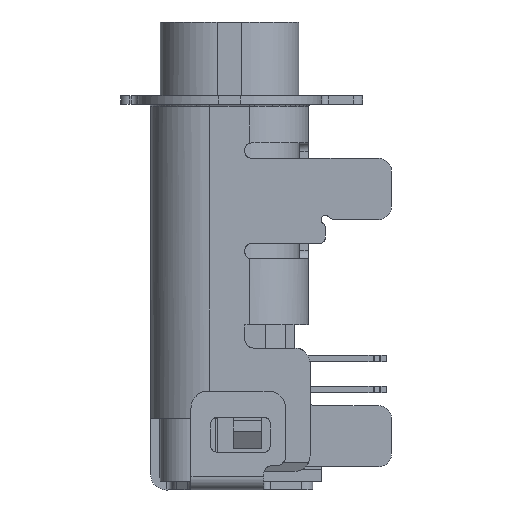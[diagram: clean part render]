
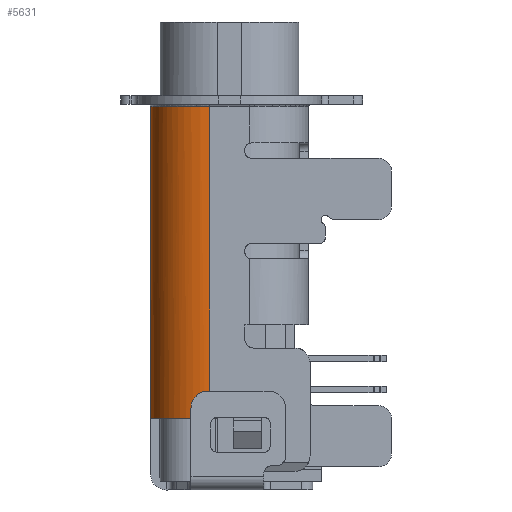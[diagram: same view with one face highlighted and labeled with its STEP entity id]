
A CAD part, left-side view. The second image highlights one B-rep face of the part: STEP entity #5631.
In plain terms, the highlighted cylindrical face has radius 1.35 mm (diameter 2.7 mm), a partial arc.
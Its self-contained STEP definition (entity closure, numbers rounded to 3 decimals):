
#453 = AXIS2_PLACEMENT_3D ( 'NONE', #3696, #11248, #4158 ) ;
#1781 = CARTESIAN_POINT ( 'NONE',  ( -3.522, 9.843, -10.09 ) ) ;
#2446 = CARTESIAN_POINT ( 'NONE',  ( -4.695, 2.726, -8.74 ) ) ;
#2612 = VERTEX_POINT ( 'NONE', #42519 ) ;
#3259 = CARTESIAN_POINT ( 'NONE',  ( -3.345, 2.726, -10.09 ) ) ;
#3696 = CARTESIAN_POINT ( 'NONE',  ( -3.345, 0., -8.74 ) ) ;
#4094 = CARTESIAN_POINT ( 'NONE',  ( -3.345, 2.726, -10.09 ) ) ;
#4158 = DIRECTION ( 'NONE',  ( -1., 0., 0. ) ) ;
#4813 = CARTESIAN_POINT ( 'NONE',  ( -4.425, 2.726, -9.57 ) ) ;
#5277 = CARTESIAN_POINT ( 'NONE',  ( -3.698, 2.726, -10.055 ) ) ;
#5631 = ADVANCED_FACE ( 'NONE', ( #36022 ), #7692, .T. ) ;
#5790 = CARTESIAN_POINT ( 'NONE',  ( -4.175, 9.843, -9.82 ) ) ;
#7692 = CYLINDRICAL_SURFACE ( 'NONE', #453, 1.35 ) ;
#8597 = CARTESIAN_POINT ( 'NONE',  ( -4.695, 2.726, -8.917 ) ) ;
#9045 = VERTEX_POINT ( 'NONE', #4094 ) ;
#9098 = CARTESIAN_POINT ( 'NONE',  ( -4.695, 9.843, -8.917 ) ) ;
#9173 = CARTESIAN_POINT ( 'NONE',  ( -3.345, 9.843, -10.09 ) ) ;
#11248 = DIRECTION ( 'NONE',  ( 0., -1., 0. ) ) ;
#11313 = EDGE_LOOP ( 'NONE', ( #21713, #37461, #12061, #33537 ) ) ;
#12061 = ORIENTED_EDGE ( 'NONE', *, *, #12787, .T. ) ;
#12422 = CARTESIAN_POINT ( 'NONE',  ( -4.525, 9.843, -9.42 ) ) ;
#12613 = CARTESIAN_POINT ( 'NONE',  ( -3.522, 2.726, -10.09 ) ) ;
#12787 = EDGE_CURVE ( 'NONE', #35740, #30373, #31983, .T. ) ;
#14493 = B_SPLINE_CURVE_WITH_KNOTS ( 'NONE', 3,
 ( #9173, #32029, #39119, #3259 ),
 .UNSPECIFIED., .F., .F.,
 ( 4, 4 ),
 ( 0., 1. ),
 .UNSPECIFIED. ) ;
#19677 = CARTESIAN_POINT ( 'NONE',  ( -4.66, 2.726, -9.094 ) ) ;
#19725 = CARTESIAN_POINT ( 'NONE',  ( -3.698, 9.843, -10.055 ) ) ;
#21557 = CARTESIAN_POINT ( 'NONE',  ( -4.695, 5.098, -8.74 ) ) ;
#21713 = ORIENTED_EDGE ( 'NONE', *, *, #22854, .T. ) ;
#22815 = CARTESIAN_POINT ( 'NONE',  ( -3.345, 9.843, -10.09 ) ) ;
#22854 = EDGE_CURVE ( 'NONE', #9045, #2612, #29247, .T. ) ;
#23747 = CARTESIAN_POINT ( 'NONE',  ( -4.695, 9.843, -8.74 ) ) ;
#24807 = CARTESIAN_POINT ( 'NONE',  ( -4.695, 9.843, -8.74 ) ) ;
#26765 = CARTESIAN_POINT ( 'NONE',  ( -4.525, 2.726, -9.42 ) ) ;
#28626 = CARTESIAN_POINT ( 'NONE',  ( -4.695, 7.47, -8.74 ) ) ;
#29247 = B_SPLINE_CURVE_WITH_KNOTS ( 'NONE', 3,
 ( #40915, #12613, #5277, #37150, #33597, #4813, #26765, #19677, #8597, #34069 ),
 .UNSPECIFIED., .F., .F.,
 ( 4, 2, 2, 2, 4 ),
 ( 0., 0.25, 0.5, 0.75, 1. ),
 .UNSPECIFIED. ) ;
#30373 = VERTEX_POINT ( 'NONE', #30988 ) ;
#30433 = EDGE_CURVE ( 'NONE', #2612, #35740, #46230, .T. ) ;
#30988 = CARTESIAN_POINT ( 'NONE',  ( -3.345, 9.843, -10.09 ) ) ;
#31983 = B_SPLINE_CURVE_WITH_KNOTS ( 'NONE', 3,
 ( #23747, #9098, #37421, #12422, #33646, #5790, #44515, #19725, #1781, #22815 ),
 .UNSPECIFIED., .F., .F.,
 ( 4, 2, 2, 2, 4 ),
 ( 0., 0.25, 0.5, 0.75, 1. ),
 .UNSPECIFIED. ) ;
#32029 = CARTESIAN_POINT ( 'NONE',  ( -3.345, 7.47, -10.09 ) ) ;
#33537 = ORIENTED_EDGE ( 'NONE', *, *, #42649, .T. ) ;
#33597 = CARTESIAN_POINT ( 'NONE',  ( -4.175, 2.726, -9.82 ) ) ;
#33646 = CARTESIAN_POINT ( 'NONE',  ( -4.425, 9.843, -9.57 ) ) ;
#34069 = CARTESIAN_POINT ( 'NONE',  ( -4.695, 2.726, -8.74 ) ) ;
#35740 = VERTEX_POINT ( 'NONE', #24807 ) ;
#36022 = FACE_OUTER_BOUND ( 'NONE', #11313, .T. ) ;
#37150 = CARTESIAN_POINT ( 'NONE',  ( -4.025, 2.726, -9.92 ) ) ;
#37421 = CARTESIAN_POINT ( 'NONE',  ( -4.66, 9.843, -9.094 ) ) ;
#37461 = ORIENTED_EDGE ( 'NONE', *, *, #30433, .T. ) ;
#39119 = CARTESIAN_POINT ( 'NONE',  ( -3.345, 5.098, -10.09 ) ) ;
#40915 = CARTESIAN_POINT ( 'NONE',  ( -3.345, 2.726, -10.09 ) ) ;
#42519 = CARTESIAN_POINT ( 'NONE',  ( -4.695, 2.726, -8.74 ) ) ;
#42649 = EDGE_CURVE ( 'NONE', #30373, #9045, #14493, .T. ) ;
#43261 = CARTESIAN_POINT ( 'NONE',  ( -4.695, 9.843, -8.74 ) ) ;
#44515 = CARTESIAN_POINT ( 'NONE',  ( -4.025, 9.843, -9.92 ) ) ;
#46230 = B_SPLINE_CURVE_WITH_KNOTS ( 'NONE', 3,
 ( #2446, #21557, #28626, #43261 ),
 .UNSPECIFIED., .F., .F.,
 ( 4, 4 ),
 ( 0., 1. ),
 .UNSPECIFIED. ) ;
